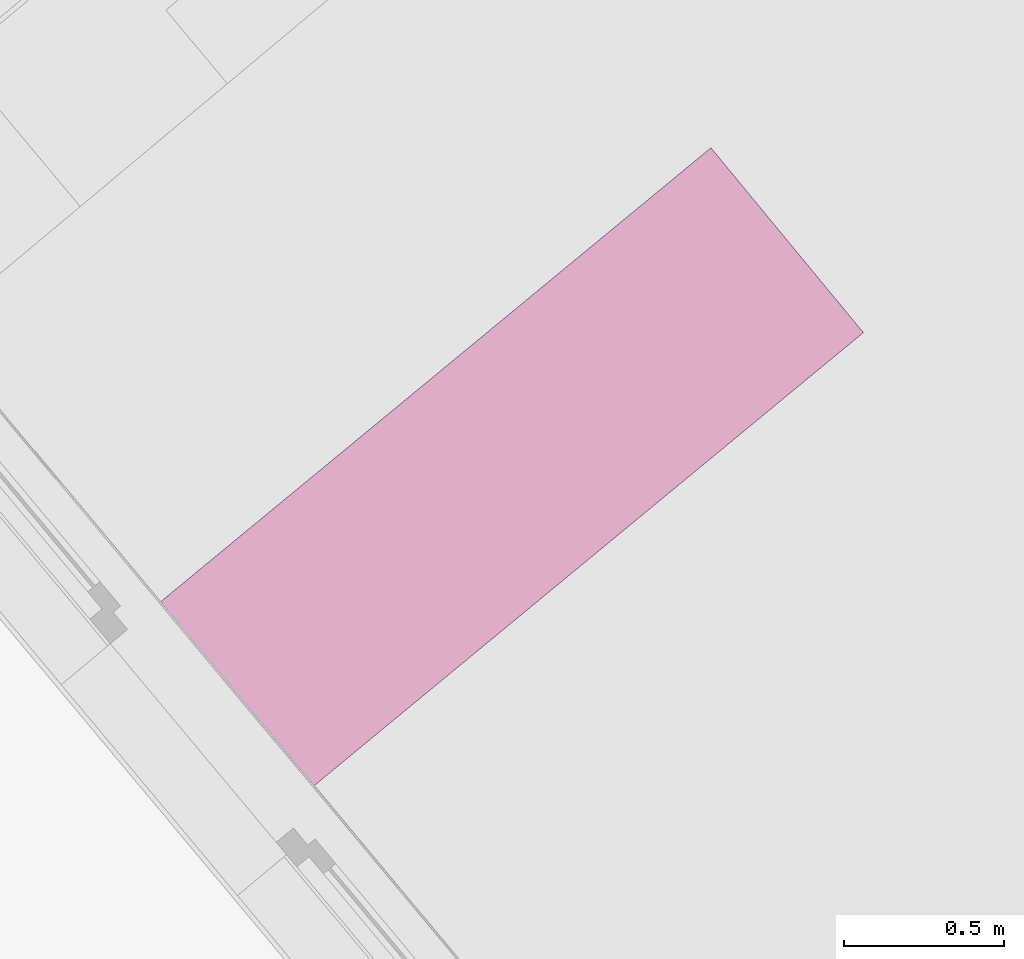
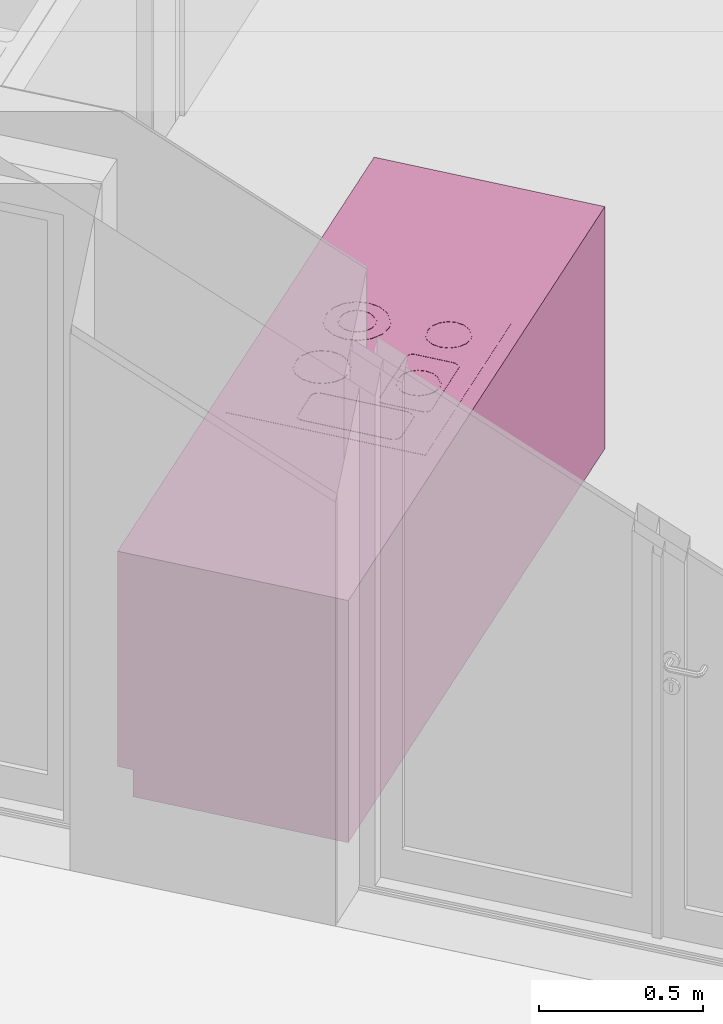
# One storey, part 71 of 75: 1 furniture element.
"""IFC4 building model written with IfcOpenShell, lengths in metres."""

import ifcopenshell
import ifcopenshell.guid

model = None  # the IFC model being written
_history = None  # IfcOwnerHistory: only IFC2X3 demands one
_inside = {}  # id of a spatial element -> (the spatial element, [elements in it])
_under = {}  # id of a project, library or spatial element -> (it, [spatial elements below it])
_declared = {}  # id of a project -> (the project, [libraries it declares])
_typed = {}  # id of a type object -> (the type object, [elements of that type])
_made_of = {}  # id of a material, layer set ... -> (it, [elements and type objects made of it])


def new_model(schema):
    """Start an empty IFC model of exactly this schema.

    Asked for "IFC4X3", IfcOpenShell would pick the latest addendum, in which some entities
    have other attributes; the version numbers below select the first issue.
    IFC2X3 requires an IfcOwnerHistory on every rooted entity: one is made here for all.
    """
    global model, _history
    if schema == "IFC4X3":
        model = ifcopenshell.file(schema_version=(4, 3, 0, 0))
    else:
        model = ifcopenshell.file(schema=schema)
    _inside.clear()
    _under.clear()
    _declared.clear()
    _typed.clear()
    _made_of.clear()
    _history = None
    if model.schema == "IFC2X3":
        org = make("IfcOrganization", Name="unknown")
        user = make(
            "IfcPersonAndOrganization",
            ThePerson=make("IfcPerson", FamilyName="unknown"),
            TheOrganization=org,
        )
        app = make(
            "IfcApplication",
            ApplicationDeveloper=org,
            Version="unknown",
            ApplicationFullName="unknown",
            ApplicationIdentifier="unknown",
        )
        _history = make(
            "IfcOwnerHistory",
            OwningUser=user,
            OwningApplication=app,
            ChangeAction="ADDED",
            CreationDate=0,
        )
    return model


def make(cls, **values):
    """One entity of the class cls with the attributes given. An attribute that is None is left unset."""
    return model.create_entity(
        cls, **{name: value for name, value in values.items() if value is not None}
    )


def entity(cls, *values):
    """Any entity or typed value of the class cls, its attributes in the order of the schema. None: left unset."""
    e = model.create_entity(cls)
    for i, value in enumerate(values):
        if value is not None:
            e[i] = value
    return e


def rooted(cls, **values):
    """An entity with a GlobalId (a new one), such as an element, a storey or a relation."""
    return make(cls, GlobalId=ifcopenshell.guid.new(), OwnerHistory=_history, **values)


def si_unit(unit_type, name, prefix=None):
    """IfcSIUnit, for example si_unit("LENGTHUNIT", "METRE", prefix="MILLI")."""
    return make("IfcSIUnit", UnitType=unit_type, Prefix=prefix, Name=name)


def converted_unit(unit_type, name, factor, base, dimensions=None, offset=None):
    """IfcConversionBasedUnit, such as the inch: factor (a typed value) times the base unit."""
    return make(
        "IfcConversionBasedUnit"
        if offset is None
        else "IfcConversionBasedUnitWithOffset",
        ConversionOffset=offset,
        Dimensions=None
        if dimensions is None
        else entity("IfcDimensionalExponents", *dimensions),
        UnitType=unit_type,
        Name=name,
        ConversionFactor=make(
            "IfcMeasureWithUnit", ValueComponent=factor, UnitComponent=base
        ),
    )


def derived_unit(unit_type, elements):
    """IfcDerivedUnit: a product of units, each with its exponent."""
    return make(
        "IfcDerivedUnit",
        Elements=[
            make("IfcDerivedUnitElement", Unit=unit, Exponent=power)
            for unit, power in elements
        ],
        UnitType=unit_type,
    )


def assignment(units):
    """IfcUnitAssignment: the units of a project."""
    return None if units is None else make("IfcUnitAssignment", Units=units)


def point(xyz):
    """IfcCartesianPoint."""
    return None if xyz is None else make("IfcCartesianPoint", Coordinates=xyz)


def direction(xyz):
    """IfcDirection."""
    return None if xyz is None else make("IfcDirection", DirectionRatios=xyz)


def frame(location, z_axis=None, x_axis=None):
    """IfcAxis2Placement3D, a coordinate frame: its origin and axes. An axis left out is left unset."""
    return make(
        "IfcAxis2Placement3D",
        Location=point(location),
        Axis=direction(z_axis),
        RefDirection=direction(x_axis),
    )


def origin_with_axes():
    """The frame at (0, 0, 0) with the z axis (0, 0, 1) and the x axis (1, 0, 0) written out."""
    return frame((0.0, 0.0, 0.0), z_axis=(0.0, 0.0, 1.0), x_axis=(1.0, 0.0, 0.0))


def place(relative_to, where):
    """IfcLocalPlacement: puts the frame where relative to a parent placement (None: the world)."""
    return make(
        "IfcLocalPlacement", PlacementRelTo=relative_to, RelativePlacement=where
    )


def context(
    kind, dimensions, precision=None, world=None, true_north=None, identifier=None
):
    """IfcGeometricRepresentationContext, for example the 3D "Model" context."""
    return make(
        "IfcGeometricRepresentationContext",
        ContextIdentifier=identifier,
        ContextType=kind,
        CoordinateSpaceDimension=dimensions,
        Precision=precision,
        WorldCoordinateSystem=world,
        TrueNorth=true_north,
    )


def subcontext(parent, identifier, kind, view, scale=None):
    """IfcGeometricRepresentationSubContext, for example "Body" below "Model"."""
    return make(
        "IfcGeometricRepresentationSubContext",
        ContextIdentifier=identifier,
        ContextType=kind,
        ParentContext=parent,
        TargetScale=scale,
        TargetView=view,
    )


def project(units=None, contexts=None):
    """IfcProject with its units and contexts."""
    return rooted(
        "IfcProject",
        Name="project",
        RepresentationContexts=contexts,
        UnitsInContext=assignment(units),
    )


def spatial(cls, under=None, at=None, **own):
    """A site, building, storey or space (cls), placed at a placement, below another one or the project."""
    s = rooted(cls, ObjectPlacement=at, **own)
    if under is not None:
        _under.setdefault(under.id(), (under, []))[1].append(s)
    return s


def point_list(points):
    """IfcCartesianPointList2D or 3D."""
    cls = (
        "IfcCartesianPointList2D" if len(points[0]) == 2 else "IfcCartesianPointList3D"
    )
    return make(cls, CoordList=points)


def polygons(points, faces, closed=None, point_numbers=None):
    """IfcPolygonalFaceSet: a face is its outer loop, then its inner loops; points numbered from 1."""
    made = []
    for loops in faces:
        if len(loops) == 1:
            made.append(make("IfcIndexedPolygonalFace", CoordIndex=loops[0]))
        else:
            made.append(
                make(
                    "IfcIndexedPolygonalFaceWithVoids",
                    CoordIndex=loops[0],
                    InnerCoordIndices=loops[1:],
                )
            )
    return make(
        "IfcPolygonalFaceSet",
        Coordinates=point_list(points),
        Closed=closed,
        Faces=made,
        PnIndex=point_numbers,
    )


def shape(context_of_items, identifier, shape_type, items):
    """IfcShapeRepresentation: the items that make up one representation, for example the "Body"."""
    return make(
        "IfcShapeRepresentation",
        ContextOfItems=context_of_items,
        RepresentationIdentifier=identifier,
        RepresentationType=shape_type,
        Items=items,
    )


def source(mapping_origin, context_of_items, identifier, shape_type, items):
    """IfcRepresentationMap: a shape defined once, which mapped items show again and again."""
    return make(
        "IfcRepresentationMap",
        MappingOrigin=mapping_origin,
        MappedRepresentation=shape(context_of_items, identifier, shape_type, items),
    )


def transform(
    local_origin,
    x_axis=None,
    y_axis=None,
    z_axis=None,
    scale=None,
    scale2=None,
    scale3=None,
    uniform=True,
):
    """IfcCartesianTransformationOperator3D, or its non-uniform kind. x_axis, y_axis, z_axis: its Axis1, 2, 3."""
    if uniform:
        return make(
            "IfcCartesianTransformationOperator3D",
            Axis1=direction(x_axis),
            Axis2=direction(y_axis),
            LocalOrigin=point(local_origin),
            Scale=scale,
            Axis3=direction(z_axis),
        )
    return make(
        "IfcCartesianTransformationOperator3DnonUniform",
        Axis1=direction(x_axis),
        Axis2=direction(y_axis),
        LocalOrigin=point(local_origin),
        Scale=scale,
        Axis3=direction(z_axis),
        Scale2=scale2,
        Scale3=scale3,
    )


def mapped(mapping_source, mapping_target):
    """IfcMappedItem: shows the shape of a source again, moved by a transform."""
    return make(
        "IfcMappedItem", MappingSource=mapping_source, MappingTarget=mapping_target
    )


def made_of(thing, what):
    """Note that an element or type object is made of a material, layer set ...; save() writes the relation."""
    if what is not None:
        _made_of.setdefault(what.id(), (what, []))[1].append(thing)
    return thing


def type_object(cls, material=None, **own):
    """A type object (cls), such as IfcWallType, which elements share."""
    return made_of(rooted(cls, **own), material)


def element(
    cls,
    number,
    at=None,
    inside=None,
    cuts=None,
    type_object=None,
    material=None,
    context=None,
    identifier="Body",
    shape_type=None,
    held_by="IfcProductDefinitionShape",
    body=None,
    shapes=None,
    **own,
):
    """One element of the class cls, such as IfcWall. Its Tag is "e" and its number.

    at: its placement. inside: the storey or other place that contains it. cuts: it is an
    opening in that element (IfcRelVoidsElement). A single representation is given by context,
    identifier, shape_type and body (its items); several are given by shapes. held_by: the class
    of the entity that holds the representations. save() writes the other relations.
    """
    e = rooted(cls, Tag="e%d" % number, ObjectPlacement=at, **own)
    if body is not None:
        shapes = [shape(context, identifier, shape_type, body)]
    if shapes is not None:
        e.Representation = make(held_by, Representations=shapes)
    if inside is not None:
        _inside.setdefault(inside.id(), (inside, []))[1].append(e)
    if cuts is not None:
        rooted(
            "IfcRelVoidsElement", RelatingBuildingElement=cuts, RelatedOpeningElement=e
        )
    if type_object is not None:
        _typed.setdefault(type_object.id(), (type_object, []))[1].append(e)
    return made_of(e, material)


def aggregate(whole, parts):
    """IfcRelAggregates: a whole, such as a stair, and the parts it consists of."""
    return rooted("IfcRelAggregates", RelatingObject=whole, RelatedObjects=parts)


def save(model, path):
    """Write the relations noted so far, then the file.

    IfcRelAggregates (storeys below a building ...), IfcRelContainedInSpatialStructure (elements
    in a storey), IfcRelDefinesByType, IfcRelAssociatesMaterial and IfcRelDeclares: one each for
    every whole, place, type object, material and project.
    """
    for whole, parts in _under.values():
        aggregate(whole, parts)
    for where, things in _inside.values():
        rooted(
            "IfcRelContainedInSpatialStructure",
            RelatedElements=things,
            RelatingStructure=where,
        )
    for kind, things in _typed.values():
        rooted("IfcRelDefinesByType", RelatedObjects=things, RelatingType=kind)
    for what, things in _made_of.values():
        rooted("IfcRelAssociatesMaterial", RelatedObjects=things, RelatingMaterial=what)
    for by, libraries in _declared.values():
        rooted("IfcRelDeclares", RelatingContext=by, RelatedDefinitions=libraries)
    model.write(path)


model = new_model("IFC4")

# Units and contexts
model_context = context("Model", 3, precision=1e-05, world=origin_with_axes(), true_north=direction((0.0, 1.0)))
body_context = subcontext(model_context, "Body", "Model", "MODEL_VIEW")
ifc_project = project(units=[si_unit("LENGTHUNIT", "METRE"), si_unit("AREAUNIT", "SQUARE_METRE"), si_unit("VOLUMEUNIT", "CUBIC_METRE"), converted_unit("PLANEANGLEUNIT", "DEGREE", entity("IfcPlaneAngleMeasure", 0.0174532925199), si_unit("PLANEANGLEUNIT", "RADIAN"), dimensions=[0, 0, 0, 0, 0, 0, 0]), converted_unit("TIMEUNIT", "Year", entity("IfcTimeMeasure", 31556926.0), si_unit("TIMEUNIT", "SECOND"), dimensions=[0, 0, 1, 0, 0, 0, 0]), si_unit("MASSUNIT", "GRAM", prefix="KILO"), si_unit("THERMODYNAMICTEMPERATUREUNIT", "DEGREE_CELSIUS"), si_unit("LUMINOUSINTENSITYUNIT", "LUMEN"), si_unit("ENERGYUNIT", "JOULE", prefix="MEGA"), derived_unit("THERMALCONDUCTANCEUNIT", [(si_unit("POWERUNIT", "WATT"), 1), (si_unit("LENGTHUNIT", "METRE"), -1), (si_unit("THERMODYNAMICTEMPERATUREUNIT", "KELVIN"), -1)]), derived_unit("SPECIFICHEATCAPACITYUNIT", [(si_unit("ENERGYUNIT", "JOULE"), 1), (si_unit("MASSUNIT", "GRAM", prefix="KILO"), -1), (si_unit("THERMODYNAMICTEMPERATUREUNIT", "KELVIN"), -1)]), derived_unit("MASSDENSITYUNIT", [(si_unit("MASSUNIT", "GRAM", prefix="KILO"), 1), (si_unit("VOLUMEUNIT", "CUBIC_METRE"), -1)])], contexts=[model_context])

# Site, building, storey, space
site_placement = place(None, frame((-0.00153261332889, -0.00661245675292, 0.0), z_axis=(0.0, 0.0, 1.0), x_axis=(1.0, 0.0, 0.0)))
site = spatial("IfcSite", under=ifc_project, at=site_placement, Name="Gelände", CompositionType="ELEMENT")
building_placement = place(site_placement, origin_with_axes())
building = spatial("IfcBuilding", under=site, at=building_placement, Name="Gebäude", CompositionType="ELEMENT")
storey_placement = place(building_placement, frame((0.0, 0.0, -0.22), z_axis=(0.0, 0.0, 1.0), x_axis=(1.0, 0.0, 0.0)))
storey = spatial("IfcBuildingStorey", under=building, at=storey_placement, Name="EG", CompositionType="ELEMENT", Elevation=-0.22)
space_placement = place(storey_placement, frame((3.52034051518, 12.5619496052, 0.22), z_axis=(0.0, 0.0, 1.0), x_axis=(-0.641209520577, 0.767365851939, 0.0)))
space = spatial("IfcSpace", under=storey, at=space_placement, CompositionType="ELEMENT", PredefinedType="NOTDEFINED")

# Furniture
furniture_type = type_object("IfcFurnitureType", Name="Konzeptküche 26", AssemblyPlace="NOTDEFINED", PredefinedType="NOTDEFINED")
shared_shape = source(origin_with_axes(), body_context, "Body", "Tessellation", [
    polygons([(0.451386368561, 0.0111886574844, 0.0), (2.6840690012, -0.00300580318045, 0.0), (2.6840690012, -0.00300580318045, 0.1), (0.451386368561, 0.0111886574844, 0.1), (0.455836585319, 0.711174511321, 0.0), (2.68851921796, 0.696980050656, 0.0), (2.68851921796, 0.696980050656, 0.1), (0.455836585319, 0.711174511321, 0.1)], [[[1, 2, 3, 4]], [[1, 5, 6, 2]], [[2, 6, 7, 3]], [[4, 3, 7, 8]], [[5, 1, 4, 8]], [[6, 5, 8, 7]]], closed=True),
    polygons([(0.451386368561, 0.0111886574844, 0.85), (2.6840690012, -0.00300580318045, 0.85), (2.6840690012, -0.00300580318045, 0.9), (0.451386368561, 0.0111886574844, 0.9), (0.456154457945, 0.76117350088, 0.85), (2.68883709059, 0.746979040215, 0.85), (2.68883709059, 0.746979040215, 0.9), (0.456154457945, 0.76117350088, 0.9)], [[[1, 2, 3, 4]], [[1, 5, 6, 2]], [[2, 6, 7, 3]], [[4, 3, 7, 8]], [[5, 1, 4, 8]], [[6, 5, 8, 7]]], closed=True),
    polygons([(0.451386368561, 0.0111886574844, 0.1), (2.6840690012, -0.00300580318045, 0.1), (2.6840690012, -0.00300580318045, 0.85), (0.451386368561, 0.0111886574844, 0.85), (0.456154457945, 0.76117350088, 0.1), (2.68883709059, 0.746979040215, 0.1), (2.68883709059, 0.746979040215, 0.85), (0.456154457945, 0.76117350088, 0.85)], [[[1, 2, 3, 4]], [[1, 5, 6, 2]], [[2, 6, 7, 3]], [[4, 3, 7, 8]], [[5, 1, 4, 8]], [[6, 5, 8, 7]]], closed=True),
    polygons([(2.01007115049, 0.701293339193, 0.9), (2.00593880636, 0.0513064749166, 0.9), (1.25595396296, 0.0560745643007, 0.9), (1.26008630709, 0.706061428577, 0.9), (2.01007115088, 0.70129333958, 0.9008), (2.00593880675, 0.0513064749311, 0.9008), (1.25595396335, 0.0560745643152, 0.9008), (1.26008630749, 0.706061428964, 0.9008), (2.00322248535, 0.694531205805, 0.901999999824), (1.99917667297, 0.0581551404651, 0.901999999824), (1.26280262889, 0.0628366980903, 0.901999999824), (1.26684844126, 0.69921276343, 0.901999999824)], [[[1, 2, 3, 4]], [[2, 1, 5, 6]], [[3, 2, 6, 7]], [[4, 3, 7, 8]], [[1, 4, 8, 5]], [[6, 5, 9, 10]], [[7, 6, 10, 11]], [[8, 7, 11, 12]], [[5, 8, 12, 9]], [[11, 10, 9, 12]]], closed=True),
    polygons([(1.95268579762, 0.208298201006, 0.902), (1.94734355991, 0.236077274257, 0.902), (1.94734355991, 0.236077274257, 0.903), (1.95268579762, 0.208298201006, 0.903), (1.9469907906, 0.180589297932, 0.902), (1.93112555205, 0.157168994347, 0.902), (1.9075054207, 0.141602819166, 0.902), (1.87972634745, 0.136260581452, 0.902), (1.85201744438, 0.141955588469, 0.902), (1.82859714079, 0.157820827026, 0.902), (1.81303096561, 0.181440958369, 0.902), (1.8076887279, 0.20922003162, 0.902), (1.81338373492, 0.236928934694, 0.902), (1.82924897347, 0.260349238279, 0.902), (1.85286910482, 0.275915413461, 0.902), (1.88064817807, 0.281257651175, 0.902), (1.90835708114, 0.275562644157, 0.902), (1.93177738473, 0.259697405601, 0.902), (1.94768589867, 0.208329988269, 0.902), (1.94271209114, 0.234193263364, 0.902), (1.92821944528, 0.256184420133, 0.902), (1.90641433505, 0.270955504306, 0.902), (1.8806163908, 0.276257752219, 0.902), (1.85475311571, 0.271283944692, 0.902), (1.83276195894, 0.256791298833, 0.902), (1.81799087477, 0.234986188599, 0.902), (1.81268862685, 0.209188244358, 0.902), (1.81766243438, 0.183324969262, 0.902), (1.83215508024, 0.161333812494, 0.902), (1.85396019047, 0.146562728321, 0.902), (1.87975813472, 0.141260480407, 0.902), (1.90562140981, 0.146234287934, 0.902), (1.92761256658, 0.160726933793, 0.902), (1.94238365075, 0.182532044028, 0.902), (1.93177738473, 0.259697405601, 0.903), (1.90835708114, 0.275562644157, 0.903), (1.88064817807, 0.281257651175, 0.903), (1.85286910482, 0.275915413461, 0.903), (1.82924897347, 0.260349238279, 0.903), (1.81338373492, 0.236928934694, 0.903), (1.8076887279, 0.20922003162, 0.903), (1.81303096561, 0.181440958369, 0.903), (1.82859714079, 0.157820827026, 0.903), (1.85201744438, 0.141955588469, 0.903), (1.87972634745, 0.136260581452, 0.903), (1.9075054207, 0.141602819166, 0.903), (1.93112555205, 0.157168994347, 0.903), (1.9469907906, 0.180589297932, 0.903), (1.94768589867, 0.208329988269, 0.903), (1.94238365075, 0.182532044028, 0.903), (1.92761256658, 0.160726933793, 0.903), (1.90562140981, 0.146234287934, 0.903), (1.87975813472, 0.141260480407, 0.903), (1.85396019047, 0.146562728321, 0.903), (1.83215508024, 0.161333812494, 0.903), (1.81766243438, 0.183324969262, 0.903), (1.81268862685, 0.209188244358, 0.903), (1.81799087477, 0.234986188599, 0.903), (1.83276195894, 0.256791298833, 0.903), (1.85475311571, 0.271283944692, 0.903), (1.8806163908, 0.276257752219, 0.903), (1.90641433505, 0.270955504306, 0.903), (1.92821944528, 0.256184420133, 0.903), (1.94271209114, 0.234193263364, 0.903)], [[[1, 2, 3, 4]], [[1, 5, 6, 7, 8, 9, 10, 11, 12, 13, 14, 15, 16, 17, 18, 2], [19, 20, 21, 22, 23, 24, 25, 26, 27, 28, 29, 30, 31, 32, 33, 34]], [[2, 18, 35, 3]], [[4, 3, 35, 36, 37, 38, 39, 40, 41, 42, 43, 44, 45, 46, 47, 48], [49, 50, 51, 52, 53, 54, 55, 56, 57, 58, 59, 60, 61, 62, 63, 64]], [[5, 1, 4, 48]], [[6, 5, 48, 47]], [[7, 6, 47, 46]], [[8, 7, 46, 45]], [[9, 8, 45, 44]], [[10, 9, 44, 43]], [[11, 10, 43, 42]], [[12, 11, 42, 41]], [[13, 12, 41, 40]], [[14, 13, 40, 39]], [[15, 14, 39, 38]], [[16, 15, 38, 37]], [[17, 16, 37, 36]], [[18, 17, 36, 35]], [[20, 19, 49, 64]], [[21, 20, 64, 63]], [[22, 21, 63, 62]], [[23, 22, 62, 61]], [[24, 23, 61, 60]], [[25, 24, 60, 59]], [[26, 25, 59, 58]], [[27, 26, 58, 57]], [[28, 27, 57, 56]], [[29, 28, 56, 55]], [[30, 29, 55, 54]], [[31, 30, 54, 53]], [[32, 31, 53, 52]], [[33, 32, 52, 51]], [[34, 33, 51, 50]], [[19, 34, 50, 49]]], closed=True),
    polygons([(1.9127590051, 0.495207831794, 0.902), (1.90833784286, 0.518197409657, 0.902), (1.90833784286, 0.518197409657, 0.903), (1.9127590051, 0.495207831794, 0.903), (1.90804589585, 0.472276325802, 0.902), (1.89491604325, 0.452894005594, 0.902), (1.87536834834, 0.44001165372, 0.902), (1.85237877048, 0.435590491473, 0.902), (1.82944726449, 0.440303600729, 0.902), (1.81006494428, 0.453433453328, 0.902), (1.7971825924, 0.472981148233, 0.902), (1.79276143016, 0.495970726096, 0.902), (1.79747453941, 0.518902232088, 0.902), (1.81060439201, 0.538284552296, 0.902), (1.83015208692, 0.551166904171, 0.902), (1.85314166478, 0.555588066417, 0.902), (1.87607317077, 0.550874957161, 0.902), (1.89545549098, 0.537745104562, 0.902), (1.90775910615, 0.495239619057, 0.902), (1.90370637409, 0.516313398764, 0.902), (1.89189755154, 0.534232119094, 0.902), (1.87413042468, 0.546267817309, 0.902), (1.85310987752, 0.550588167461, 0.902), (1.83203609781, 0.546535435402, 0.902), (1.81411737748, 0.53472661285, 0.902), (1.80208167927, 0.516959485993, 0.902), (1.79776132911, 0.495938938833, 0.902), (1.80181406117, 0.474865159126, 0.902), (1.81362288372, 0.456946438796, 0.902), (1.83139001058, 0.444910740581, 0.902), (1.85241055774, 0.440590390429, 0.902), (1.87348433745, 0.444643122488, 0.902), (1.89140305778, 0.45645194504, 0.902), (1.90343875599, 0.474219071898, 0.902), (1.89545549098, 0.537745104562, 0.903), (1.87607317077, 0.550874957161, 0.903), (1.85314166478, 0.555588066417, 0.903), (1.83015208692, 0.551166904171, 0.903), (1.81060439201, 0.538284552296, 0.903), (1.79747453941, 0.518902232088, 0.903), (1.79276143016, 0.495970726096, 0.903), (1.7971825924, 0.472981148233, 0.903), (1.81006494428, 0.453433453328, 0.903), (1.82944726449, 0.440303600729, 0.903), (1.85237877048, 0.435590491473, 0.903), (1.87536834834, 0.44001165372, 0.903), (1.89491604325, 0.452894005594, 0.903), (1.90804589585, 0.472276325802, 0.903), (1.90775910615, 0.495239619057, 0.903), (1.90343875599, 0.474219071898, 0.903), (1.89140305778, 0.45645194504, 0.903), (1.87348433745, 0.444643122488, 0.903), (1.85241055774, 0.440590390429, 0.903), (1.83139001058, 0.444910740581, 0.903), (1.81362288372, 0.456946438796, 0.903), (1.80181406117, 0.474865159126, 0.903), (1.79776132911, 0.495938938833, 0.903), (1.80208167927, 0.516959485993, 0.903), (1.81411737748, 0.53472661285, 0.903), (1.83203609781, 0.546535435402, 0.903), (1.85310987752, 0.550588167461, 0.903), (1.87413042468, 0.546267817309, 0.903), (1.89189755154, 0.534232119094, 0.903), (1.90370637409, 0.516313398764, 0.903)], [[[1, 2, 3, 4]], [[1, 5, 6, 7, 8, 9, 10, 11, 12, 13, 14, 15, 16, 17, 18, 2], [19, 20, 21, 22, 23, 24, 25, 26, 27, 28, 29, 30, 31, 32, 33, 34]], [[2, 18, 35, 3]], [[4, 3, 35, 36, 37, 38, 39, 40, 41, 42, 43, 44, 45, 46, 47, 48], [49, 50, 51, 52, 53, 54, 55, 56, 57, 58, 59, 60, 61, 62, 63, 64]], [[5, 1, 4, 48]], [[6, 5, 48, 47]], [[7, 6, 47, 46]], [[8, 7, 46, 45]], [[9, 8, 45, 44]], [[10, 9, 44, 43]], [[11, 10, 43, 42]], [[12, 11, 42, 41]], [[13, 12, 41, 40]], [[14, 13, 40, 39]], [[15, 14, 39, 38]], [[16, 15, 38, 37]], [[17, 16, 37, 36]], [[18, 17, 36, 35]], [[20, 19, 49, 64]], [[21, 20, 64, 63]], [[22, 21, 63, 62]], [[23, 22, 62, 61]], [[24, 23, 61, 60]], [[25, 24, 60, 59]], [[26, 25, 59, 58]], [[27, 26, 58, 57]], [[28, 27, 57, 56]], [[29, 28, 56, 55]], [[30, 29, 55, 54]], [[31, 30, 54, 53]], [[32, 31, 53, 52]], [[33, 32, 52, 51]], [[34, 33, 51, 50]], [[19, 34, 50, 49]]], closed=True),
    polygons([(1.95775809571, 0.494921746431, 0.902), (1.95002106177, 0.535153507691, 0.902), (1.95002106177, 0.535153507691, 0.903), (1.95775809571, 0.494921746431, 0.903), (1.94951015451, 0.454791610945, 0.902), (1.92653291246, 0.420872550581, 0.902), (1.89232444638, 0.3983284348, 0.902), (1.85209268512, 0.39059140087, 0.902), (1.81196254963, 0.398839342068, 0.902), (1.77804348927, 0.421816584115, 0.902), (1.75549937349, 0.456025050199, 0.902), (1.74776233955, 0.496256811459, 0.902), (1.75601028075, 0.536386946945, 0.902), (1.7789875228, 0.57030600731, 0.902), (1.81319598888, 0.59285012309, 0.902), (1.85342775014, 0.60058715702, 0.902), (1.89355788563, 0.592339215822, 0.902), (1.92747694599, 0.569361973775, 0.902), (1.95275819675, 0.494953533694, 0.902), (1.94538959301, 0.533269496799, 0.902), (1.92391900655, 0.565848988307, 0.902), (1.89161513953, 0.587732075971, 0.902), (1.85339596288, 0.595587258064, 0.902), (1.81507999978, 0.588218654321, 0.902), (1.78250050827, 0.566748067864, 0.902), (1.7606174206, 0.53444420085, 0.902), (1.75276223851, 0.496225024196, 0.902), (1.76013084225, 0.457909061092, 0.902), (1.78160142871, 0.425329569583, 0.902), (1.81390529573, 0.403446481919, 0.902), (1.85212447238, 0.395591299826, 0.902), (1.89044043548, 0.402959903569, 0.902), (1.92301992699, 0.424430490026, 0.902), (1.94490301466, 0.456734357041, 0.902), (1.92747694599, 0.569361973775, 0.903), (1.89355788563, 0.592339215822, 0.903), (1.85342775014, 0.60058715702, 0.903), (1.81319598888, 0.59285012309, 0.903), (1.7789875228, 0.57030600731, 0.903), (1.75601028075, 0.536386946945, 0.903), (1.74776233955, 0.496256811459, 0.903), (1.75549937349, 0.456025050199, 0.903), (1.77804348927, 0.421816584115, 0.903), (1.81196254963, 0.398839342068, 0.903), (1.85209268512, 0.39059140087, 0.903), (1.89232444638, 0.3983284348, 0.903), (1.92653291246, 0.420872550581, 0.903), (1.94951015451, 0.454791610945, 0.903), (1.95275819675, 0.494953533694, 0.903), (1.94490301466, 0.456734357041, 0.903), (1.92301992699, 0.424430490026, 0.903), (1.89044043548, 0.402959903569, 0.903), (1.85212447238, 0.395591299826, 0.903), (1.81390529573, 0.403446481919, 0.903), (1.78160142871, 0.425329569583, 0.903), (1.76013084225, 0.457909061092, 0.903), (1.75276223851, 0.496225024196, 0.903), (1.7606174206, 0.53444420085, 0.903), (1.78250050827, 0.566748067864, 0.903), (1.81507999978, 0.588218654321, 0.903), (1.85339596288, 0.595587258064, 0.903), (1.89161513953, 0.587732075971, 0.903), (1.92391900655, 0.565848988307, 0.903), (1.94538959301, 0.533269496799, 0.903)], [[[1, 2, 3, 4]], [[1, 5, 6, 7, 8, 9, 10, 11, 12, 13, 14, 15, 16, 17, 18, 2], [19, 20, 21, 22, 23, 24, 25, 26, 27, 28, 29, 30, 31, 32, 33, 34]], [[2, 18, 35, 3]], [[4, 3, 35, 36, 37, 38, 39, 40, 41, 42, 43, 44, 45, 46, 47, 48], [49, 50, 51, 52, 53, 54, 55, 56, 57, 58, 59, 60, 61, 62, 63, 64]], [[5, 1, 4, 48]], [[6, 5, 48, 47]], [[7, 6, 47, 46]], [[8, 7, 46, 45]], [[9, 8, 45, 44]], [[10, 9, 44, 43]], [[11, 10, 43, 42]], [[12, 11, 42, 41]], [[13, 12, 41, 40]], [[14, 13, 40, 39]], [[15, 14, 39, 38]], [[16, 15, 38, 37]], [[17, 16, 37, 36]], [[18, 17, 36, 35]], [[20, 19, 49, 64]], [[21, 20, 64, 63]], [[22, 21, 63, 62]], [[23, 22, 62, 61]], [[24, 23, 61, 60]], [[25, 24, 60, 59]], [[26, 25, 59, 58]], [[27, 26, 58, 57]], [[28, 27, 57, 56]], [[29, 28, 56, 55]], [[30, 29, 55, 54]], [[31, 30, 54, 53]], [[32, 31, 53, 52]], [[33, 32, 52, 51]], [[34, 33, 51, 50]], [[19, 34, 50, 49]]], closed=True),
    polygons([(1.67867067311, 0.206790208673, 0.902), (1.67351265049, 0.233611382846, 0.902), (1.67351265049, 0.233611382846, 0.903), (1.67867067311, 0.206790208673, 0.903), (1.67317204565, 0.180036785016, 0.902), (1.65785388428, 0.157424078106, 0.902), (1.63504824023, 0.142394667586, 0.902), (1.60822706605, 0.137236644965, 0.902), (1.5814736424, 0.142735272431, 0.902), (1.55886093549, 0.158053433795, 0.902), (1.54383152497, 0.180859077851, 0.902), (1.53867350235, 0.207680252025, 0.902), (1.54417212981, 0.234433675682, 0.902), (1.55949029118, 0.257046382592, 0.902), (1.58229593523, 0.272075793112, 0.902), (1.60911710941, 0.277233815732, 0.902), (1.63587053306, 0.271735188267, 0.902), (1.65848323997, 0.256417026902, 0.902), (1.67367077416, 0.206821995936, 0.902), (1.66888118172, 0.231727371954, 0.902), (1.65492530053, 0.252904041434, 0.902), (1.63392778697, 0.267128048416, 0.902), (1.60908532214, 0.272233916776, 0.902), (1.58417994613, 0.267444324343, 0.902), (1.56300327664, 0.253488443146, 0.902), (1.54877926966, 0.232490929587, 0.902), (1.5436734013, 0.207648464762, 0.902), (1.54846299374, 0.182743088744, 0.902), (1.56241887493, 0.161566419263, 0.902), (1.58341638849, 0.147342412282, 0.902), (1.60825885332, 0.142236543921, 0.902), (1.63316422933, 0.147026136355, 0.902), (1.65434089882, 0.160982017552, 0.902), (1.6685649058, 0.181979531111, 0.902), (1.65848323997, 0.256417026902, 0.903), (1.63587053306, 0.271735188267, 0.903), (1.60911710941, 0.277233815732, 0.903), (1.58229593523, 0.272075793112, 0.903), (1.55949029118, 0.257046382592, 0.903), (1.54417212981, 0.234433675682, 0.903), (1.53867350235, 0.207680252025, 0.903), (1.54383152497, 0.180859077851, 0.903), (1.55886093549, 0.158053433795, 0.903), (1.5814736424, 0.142735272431, 0.903), (1.60822706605, 0.137236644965, 0.903), (1.63504824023, 0.142394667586, 0.903), (1.65785388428, 0.157424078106, 0.903), (1.67317204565, 0.180036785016, 0.903), (1.67367077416, 0.206821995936, 0.903), (1.6685649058, 0.181979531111, 0.903), (1.65434089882, 0.160982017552, 0.903), (1.63316422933, 0.147026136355, 0.903), (1.60825885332, 0.142236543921, 0.903), (1.58341638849, 0.147342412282, 0.903), (1.56241887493, 0.161566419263, 0.903), (1.54846299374, 0.182743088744, 0.903), (1.5436734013, 0.207648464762, 0.903), (1.54877926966, 0.232490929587, 0.903), (1.56300327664, 0.253488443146, 0.903), (1.58417994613, 0.267444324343, 0.903), (1.60908532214, 0.272233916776, 0.903), (1.63392778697, 0.267128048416, 0.903), (1.65492530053, 0.252904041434, 0.903), (1.66888118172, 0.231727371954, 0.903)], [[[1, 2, 3, 4]], [[1, 5, 6, 7, 8, 9, 10, 11, 12, 13, 14, 15, 16, 17, 18, 2], [19, 20, 21, 22, 23, 24, 25, 26, 27, 28, 29, 30, 31, 32, 33, 34]], [[2, 18, 35, 3]], [[4, 3, 35, 36, 37, 38, 39, 40, 41, 42, 43, 44, 45, 46, 47, 48], [49, 50, 51, 52, 53, 54, 55, 56, 57, 58, 59, 60, 61, 62, 63, 64]], [[5, 1, 4, 48]], [[6, 5, 48, 47]], [[7, 6, 47, 46]], [[8, 7, 46, 45]], [[9, 8, 45, 44]], [[10, 9, 44, 43]], [[11, 10, 43, 42]], [[12, 11, 42, 41]], [[13, 12, 41, 40]], [[14, 13, 40, 39]], [[15, 14, 39, 38]], [[16, 15, 38, 37]], [[17, 16, 37, 36]], [[18, 17, 36, 35]], [[20, 19, 49, 64]], [[21, 20, 64, 63]], [[22, 21, 63, 62]], [[23, 22, 62, 61]], [[24, 23, 61, 60]], [[25, 24, 60, 59]], [[26, 25, 59, 58]], [[27, 26, 58, 57]], [[28, 27, 57, 56]], [[29, 28, 56, 55]], [[30, 29, 55, 54]], [[31, 30, 54, 53]], [[32, 31, 53, 52]], [[33, 32, 52, 51]], [[34, 33, 51, 50]], [[19, 34, 50, 49]]], closed=True),
    polygons([(1.67698381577, 0.511657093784, 0.902), (1.6703520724, 0.546141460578, 0.902), (1.6703520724, 0.546141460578, 0.903), (1.67698381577, 0.511657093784, 0.903), (1.66991415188, 0.477259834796, 0.902), (1.65021937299, 0.448186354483, 0.902), (1.62089783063, 0.428862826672, 0.902), (1.58641346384, 0.422231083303, 0.902), (1.55201620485, 0.429300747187, 0.902), (1.52294272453, 0.448995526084, 0.902), (1.50361919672, 0.478317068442, 0.902), (1.49698745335, 0.512801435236, 0.902), (1.50405711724, 0.547198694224, 0.902), (1.52375189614, 0.576272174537, 0.902), (1.55307343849, 0.595595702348, 0.902), (1.58755780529, 0.602227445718, 0.902), (1.62195506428, 0.595157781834, 0.902), (1.65102854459, 0.575463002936, 0.902), (1.67198391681, 0.511688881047, 0.902), (1.66572060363, 0.544257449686, 0.902), (1.64747060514, 0.571950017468, 0.902), (1.62001231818, 0.590550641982, 0.902), (1.58752601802, 0.597227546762, 0.902), (1.55495744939, 0.590964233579, 0.902), (1.5272648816, 0.572714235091, 0.902), (1.50866425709, 0.545255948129, 0.902), (1.50198735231, 0.512769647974, 0.902), (1.50825066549, 0.480201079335, 0.902), (1.52650066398, 0.452508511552, 0.902), (1.55395895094, 0.433907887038, 0.902), (1.5864452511, 0.427230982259, 0.902), (1.61901381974, 0.433494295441, 0.902), (1.64670638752, 0.451744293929, 0.902), (1.66530701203, 0.479202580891, 0.902), (1.65102854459, 0.575463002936, 0.903), (1.62195506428, 0.595157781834, 0.903), (1.58755780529, 0.602227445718, 0.903), (1.55307343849, 0.595595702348, 0.903), (1.52375189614, 0.576272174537, 0.903), (1.50405711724, 0.547198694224, 0.903), (1.49698745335, 0.512801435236, 0.903), (1.50361919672, 0.478317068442, 0.903), (1.52294272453, 0.448995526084, 0.903), (1.55201620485, 0.429300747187, 0.903), (1.58641346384, 0.422231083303, 0.903), (1.62089783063, 0.428862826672, 0.903), (1.65021937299, 0.448186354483, 0.903), (1.66991415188, 0.477259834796, 0.903), (1.67198391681, 0.511688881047, 0.903), (1.66530701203, 0.479202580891, 0.903), (1.64670638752, 0.451744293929, 0.903), (1.61901381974, 0.433494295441, 0.903), (1.5864452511, 0.427230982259, 0.903), (1.55395895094, 0.433907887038, 0.903), (1.52650066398, 0.452508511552, 0.903), (1.50825066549, 0.480201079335, 0.903), (1.50198735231, 0.512769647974, 0.903), (1.50866425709, 0.545255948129, 0.903), (1.5272648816, 0.572714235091, 0.903), (1.55495744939, 0.590964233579, 0.903), (1.58752601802, 0.597227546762, 0.903), (1.62001231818, 0.590550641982, 0.903), (1.64747060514, 0.571950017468, 0.903), (1.66572060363, 0.544257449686, 0.903)], [[[1, 2, 3, 4]], [[1, 5, 6, 7, 8, 9, 10, 11, 12, 13, 14, 15, 16, 17, 18, 2], [19, 20, 21, 22, 23, 24, 25, 26, 27, 28, 29, 30, 31, 32, 33, 34]], [[2, 18, 35, 3]], [[4, 3, 35, 36, 37, 38, 39, 40, 41, 42, 43, 44, 45, 46, 47, 48], [49, 50, 51, 52, 53, 54, 55, 56, 57, 58, 59, 60, 61, 62, 63, 64]], [[5, 1, 4, 48]], [[6, 5, 48, 47]], [[7, 6, 47, 46]], [[8, 7, 46, 45]], [[9, 8, 45, 44]], [[10, 9, 44, 43]], [[11, 10, 43, 42]], [[12, 11, 42, 41]], [[13, 12, 41, 40]], [[14, 13, 40, 39]], [[15, 14, 39, 38]], [[16, 15, 38, 37]], [[17, 16, 37, 36]], [[18, 17, 36, 35]], [[20, 19, 49, 64]], [[21, 20, 64, 63]], [[22, 21, 63, 62]], [[23, 22, 62, 61]], [[24, 23, 61, 60]], [[25, 24, 60, 59]], [[26, 25, 59, 58]], [[27, 26, 58, 57]], [[28, 27, 57, 56]], [[29, 28, 56, 55]], [[30, 29, 55, 54]], [[31, 30, 54, 53]], [[32, 31, 53, 52]], [[33, 32, 52, 51]], [[34, 33, 51, 50]], [[19, 34, 50, 49]]], closed=True),
    polygons([(1.72815115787, 0.294201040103, 0.902), (1.49030841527, 0.295713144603, 0.902), (1.49030841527, 0.295713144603, 0.903), (1.72815115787, 0.294201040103, 0.903), (1.73655937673, 0.292472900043, 0.902), (1.74366622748, 0.287658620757, 0.902), (1.7483897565, 0.280491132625, 0.902), (1.75001084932, 0.272061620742, 0.902), (1.74917517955, 0.140617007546, 0.902), (1.74744703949, 0.132208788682, 0.902), (1.7426327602, 0.125101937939, 0.902), (1.73546527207, 0.120378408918, 0.902), (1.72703576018, 0.118757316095, 0.902), (1.48919301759, 0.120269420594, 0.902), (1.48078479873, 0.121997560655, 0.902), (1.47367794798, 0.126811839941, 0.902), (1.46895441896, 0.133979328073, 0.902), (1.46733332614, 0.142408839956, 0.902), (1.46816899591, 0.273853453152, 0.902), (1.46989713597, 0.282261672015, 0.902), (1.47471141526, 0.289368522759, 0.902), (1.48187890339, 0.294092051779, 0.902), (1.72406760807, 0.123776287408, 0.902), (1.73173080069, 0.125250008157, 0.902), (1.738246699, 0.129544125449, 0.902), (1.74262331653, 0.136004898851, 0.902), (1.74419435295, 0.143648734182, 0.902), (1.74499187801, 0.269093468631, 0.902), (1.74351815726, 0.276756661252, 0.902), (1.73922403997, 0.283272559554, 0.902), (1.73276326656, 0.287649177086, 0.902), (1.72511943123, 0.289220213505, 0.902), (1.49327656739, 0.290694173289, 0.902), (1.48561337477, 0.28922045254, 0.902), (1.47909747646, 0.284926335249, 0.902), (1.47472085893, 0.278465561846, 0.902), (1.47314982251, 0.270821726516, 0.902), (1.47235229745, 0.145376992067, 0.902), (1.4738260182, 0.137713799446, 0.902), (1.47812013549, 0.131197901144, 0.902), (1.4845809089, 0.126821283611, 0.902), (1.49222474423, 0.125250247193, 0.902), (1.48187890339, 0.294092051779, 0.903), (1.47471141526, 0.289368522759, 0.903), (1.46989713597, 0.282261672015, 0.903), (1.46816899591, 0.273853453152, 0.903), (1.46733332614, 0.142408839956, 0.903), (1.46895441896, 0.133979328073, 0.903), (1.47367794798, 0.126811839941, 0.903), (1.48078479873, 0.121997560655, 0.903), (1.48919301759, 0.120269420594, 0.903), (1.72703576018, 0.118757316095, 0.903), (1.73546527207, 0.120378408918, 0.903), (1.7426327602, 0.125101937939, 0.903), (1.74744703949, 0.132208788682, 0.903), (1.74917517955, 0.140617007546, 0.903), (1.75001084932, 0.272061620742, 0.903), (1.7483897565, 0.280491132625, 0.903), (1.74366622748, 0.287658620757, 0.903), (1.73655937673, 0.292472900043, 0.903), (1.72406760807, 0.123776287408, 0.903), (1.49222474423, 0.125250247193, 0.903), (1.4845809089, 0.126821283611, 0.903), (1.47812013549, 0.131197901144, 0.903), (1.4738260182, 0.137713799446, 0.903), (1.47235229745, 0.145376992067, 0.903), (1.47314982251, 0.270821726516, 0.903), (1.47472085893, 0.278465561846, 0.903), (1.47909747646, 0.284926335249, 0.903), (1.48561337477, 0.28922045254, 0.903), (1.49327656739, 0.290694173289, 0.903), (1.72511943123, 0.289220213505, 0.903), (1.73276326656, 0.287649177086, 0.903), (1.73922403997, 0.283272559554, 0.903), (1.74351815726, 0.276756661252, 0.903), (1.74499187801, 0.269093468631, 0.903), (1.74419435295, 0.143648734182, 0.903), (1.74262331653, 0.136004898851, 0.903), (1.738246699, 0.129544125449, 0.903), (1.73173080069, 0.125250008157, 0.903)], [[[1, 2, 3, 4]], [[1, 5, 6, 7, 8, 9, 10, 11, 12, 13, 14, 15, 16, 17, 18, 19, 20, 21, 22, 2], [23, 24, 25, 26, 27, 28, 29, 30, 31, 32, 33, 34, 35, 36, 37, 38, 39, 40, 41, 42]], [[2, 22, 43, 3]], [[4, 3, 43, 44, 45, 46, 47, 48, 49, 50, 51, 52, 53, 54, 55, 56, 57, 58, 59, 60], [61, 62, 63, 64, 65, 66, 67, 68, 69, 70, 71, 72, 73, 74, 75, 76, 77, 78, 79, 80]], [[5, 1, 4, 60]], [[6, 5, 60, 59]], [[7, 6, 59, 58]], [[8, 7, 58, 57]], [[9, 8, 57, 56]], [[10, 9, 56, 55]], [[11, 10, 55, 54]], [[12, 11, 54, 53]], [[13, 12, 53, 52]], [[14, 13, 52, 51]], [[15, 14, 51, 50]], [[16, 15, 50, 49]], [[17, 16, 49, 48]], [[18, 17, 48, 47]], [[19, 18, 47, 46]], [[20, 19, 46, 45]], [[21, 20, 45, 44]], [[22, 21, 44, 43]], [[24, 23, 61, 80]], [[25, 24, 80, 79]], [[26, 25, 79, 78]], [[27, 26, 78, 77]], [[28, 27, 77, 76]], [[29, 28, 76, 75]], [[30, 29, 75, 74]], [[31, 30, 74, 73]], [[32, 31, 73, 72]], [[33, 32, 72, 71]], [[34, 33, 71, 70]], [[35, 34, 70, 69]], [[36, 35, 69, 68]], [[37, 36, 68, 67]], [[38, 37, 67, 66]], [[39, 38, 66, 65]], [[40, 39, 65, 64]], [[41, 40, 64, 63]], [[42, 41, 63, 62]], [[23, 42, 62, 61]]], closed=True),
    polygons([(1.45676176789, 0.182500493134, 0.902), (1.45859271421, 0.470494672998, 0.902), (1.45859271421, 0.470494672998, 0.903), (1.45676176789, 0.182500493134, 0.903), (1.45471942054, 0.172563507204, 0.902), (1.44902981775, 0.16416450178, 0.902), (1.44055914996, 0.158582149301, 0.902), (1.43059699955, 0.156666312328, 0.902), (1.3225991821, 0.157352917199, 0.902), (1.31266219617, 0.159395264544, 0.902), (1.30426319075, 0.165084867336, 0.902), (1.29868083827, 0.173555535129, 0.902), (1.2967650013, 0.183517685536, 0.902), (1.29859594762, 0.4715118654, 0.902), (1.30063829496, 0.48144885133, 0.902), (1.30632789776, 0.489847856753, 0.902), (1.31479856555, 0.495430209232, 0.902), (1.32476071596, 0.497346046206, 0.902), (1.4327585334, 0.496659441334, 0.902), (1.44269551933, 0.49461709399, 0.902), (1.45109452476, 0.488927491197, 0.902), (1.45667687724, 0.480456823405, 0.902), (1.42562888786, 0.161697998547, 0.902), (1.43559103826, 0.16361383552, 0.902), (1.44406170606, 0.169196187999, 0.902), (1.44975130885, 0.177595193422, 0.902), (1.45179365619, 0.187532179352, 0.902), (1.45356102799, 0.465526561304, 0.902), (1.45164519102, 0.475488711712, 0.902), (1.44606283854, 0.483959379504, 0.902), (1.43766383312, 0.489648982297, 0.902), (1.42772684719, 0.491691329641, 0.902), (1.32972882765, 0.492314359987, 0.902), (1.31976667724, 0.490398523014, 0.902), (1.31129600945, 0.484816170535, 0.902), (1.30560640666, 0.476417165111, 0.902), (1.30356405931, 0.466480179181, 0.902), (1.30179668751, 0.188485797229, 0.902), (1.30371252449, 0.178523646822, 0.902), (1.30929487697, 0.17005297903, 0.902), (1.31769388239, 0.164363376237, 0.902), (1.32763086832, 0.162321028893, 0.902), (1.45667687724, 0.480456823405, 0.903), (1.45109452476, 0.488927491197, 0.903), (1.44269551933, 0.49461709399, 0.903), (1.4327585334, 0.496659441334, 0.903), (1.32476071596, 0.497346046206, 0.903), (1.31479856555, 0.495430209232, 0.903), (1.30632789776, 0.489847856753, 0.903), (1.30063829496, 0.48144885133, 0.903), (1.29859594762, 0.4715118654, 0.903), (1.2967650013, 0.183517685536, 0.903), (1.29868083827, 0.173555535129, 0.903), (1.30426319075, 0.165084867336, 0.903), (1.31266219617, 0.159395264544, 0.903), (1.3225991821, 0.157352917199, 0.903), (1.43059699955, 0.156666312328, 0.903), (1.44055914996, 0.158582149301, 0.903), (1.44902981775, 0.16416450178, 0.903), (1.45471942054, 0.172563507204, 0.903), (1.42562888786, 0.161697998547, 0.903), (1.32763086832, 0.162321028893, 0.903), (1.31769388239, 0.164363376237, 0.903), (1.30929487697, 0.17005297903, 0.903), (1.30371252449, 0.178523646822, 0.903), (1.30179668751, 0.188485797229, 0.903), (1.30356405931, 0.466480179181, 0.903), (1.30560640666, 0.476417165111, 0.903), (1.31129600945, 0.484816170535, 0.903), (1.31976667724, 0.490398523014, 0.903), (1.32972882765, 0.492314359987, 0.903), (1.42772684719, 0.491691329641, 0.903), (1.43766383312, 0.489648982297, 0.903), (1.44606283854, 0.483959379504, 0.903), (1.45164519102, 0.475488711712, 0.903), (1.45356102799, 0.465526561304, 0.903), (1.45179365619, 0.187532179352, 0.903), (1.44975130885, 0.177595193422, 0.903), (1.44406170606, 0.169196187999, 0.903), (1.43559103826, 0.16361383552, 0.903)], [[[1, 2, 3, 4]], [[1, 5, 6, 7, 8, 9, 10, 11, 12, 13, 14, 15, 16, 17, 18, 19, 20, 21, 22, 2], [23, 24, 25, 26, 27, 28, 29, 30, 31, 32, 33, 34, 35, 36, 37, 38, 39, 40, 41, 42]], [[2, 22, 43, 3]], [[4, 3, 43, 44, 45, 46, 47, 48, 49, 50, 51, 52, 53, 54, 55, 56, 57, 58, 59, 60], [61, 62, 63, 64, 65, 66, 67, 68, 69, 70, 71, 72, 73, 74, 75, 76, 77, 78, 79, 80]], [[5, 1, 4, 60]], [[6, 5, 60, 59]], [[7, 6, 59, 58]], [[8, 7, 58, 57]], [[9, 8, 57, 56]], [[10, 9, 56, 55]], [[11, 10, 55, 54]], [[12, 11, 54, 53]], [[13, 12, 53, 52]], [[14, 13, 52, 51]], [[15, 14, 51, 50]], [[16, 15, 50, 49]], [[17, 16, 49, 48]], [[18, 17, 48, 47]], [[19, 18, 47, 46]], [[20, 19, 46, 45]], [[21, 20, 45, 44]], [[22, 21, 44, 43]], [[24, 23, 61, 80]], [[25, 24, 80, 79]], [[26, 25, 79, 78]], [[27, 26, 78, 77]], [[28, 27, 77, 76]], [[29, 28, 76, 75]], [[30, 29, 75, 74]], [[31, 30, 74, 73]], [[32, 31, 73, 72]], [[33, 32, 72, 71]], [[34, 33, 71, 70]], [[35, 34, 70, 69]], [[36, 35, 69, 68]], [[37, 36, 68, 67]], [[38, 37, 67, 66]], [[39, 38, 66, 65]], [[40, 39, 65, 64]], [[41, 40, 64, 63]], [[42, 41, 63, 62]], [[23, 42, 62, 61]]], closed=True),
])
furniture_placement = place(space_placement, frame((4.89251364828, 5.26074633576, 0.0), z_axis=(0.0, 0.0, 1.0), x_axis=(0.0, -1.0, 0.0)))
element("IfcFurniture", 1, at=furniture_placement, inside=space, type_object=furniture_type, Name="Objekt-0002", PredefinedType="NOTDEFINED", context=body_context, shape_type="MappedRepresentation", body=[
    mapped(shared_shape, transform((0.0, 0.0, 0.0))),
])

save(model, "model.ifc")
